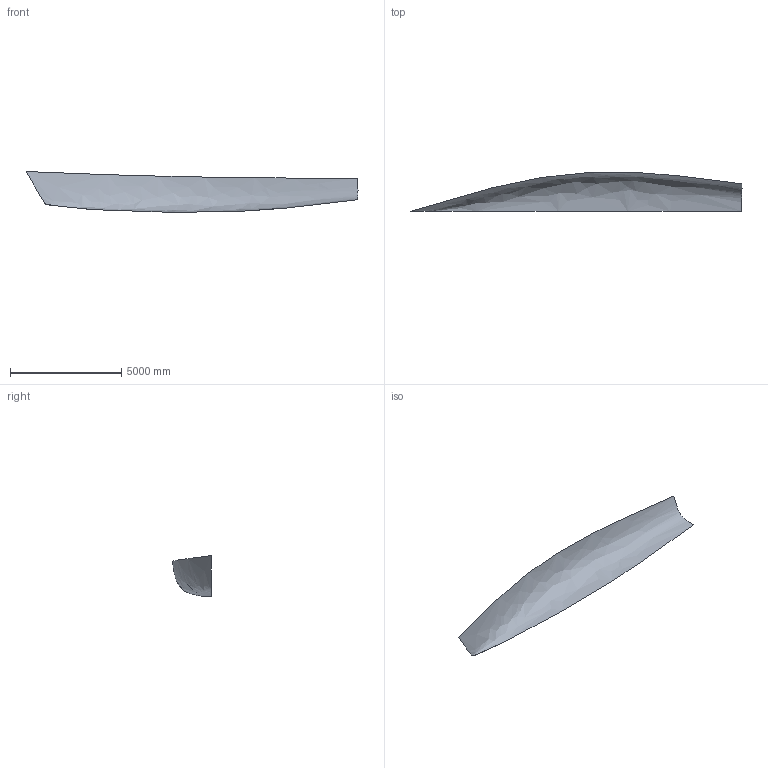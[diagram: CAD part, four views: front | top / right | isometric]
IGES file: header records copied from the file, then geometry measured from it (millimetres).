
Start section: DATA transfer to IGES file format           James R Teeters           17 Goodwin Street           Newport, RI 02840
Global section: file name: UssaM9.igs; author: Jim Teeters; organization: Newport RI; date: 951128.120000; units: metre
Bounding box: 14909.5 x 1744.88 x 1835.06 mm (x, y, z)
Surface area: 33481407.4 mm2 (no closed solid volume)
Topology: 0 solids, 0 shells, 1 faces, 4 edges, 4 vertices
Faces by surface type: bspline 1
